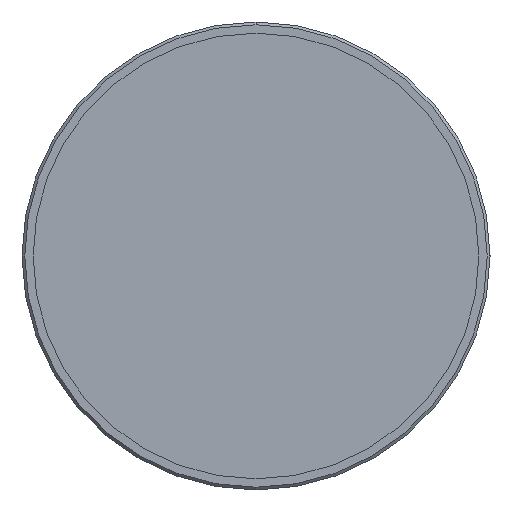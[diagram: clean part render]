
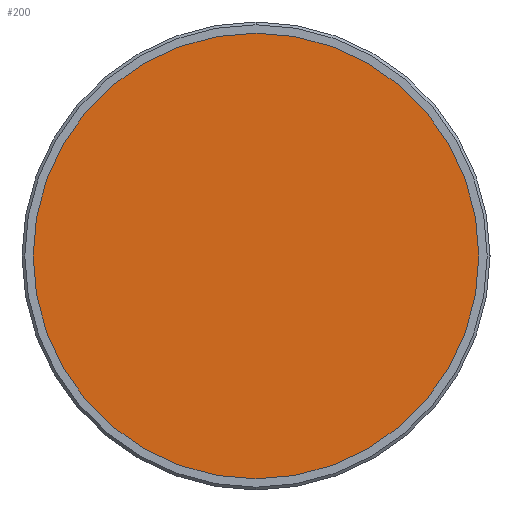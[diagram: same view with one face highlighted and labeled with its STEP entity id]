
A CAD part, left-side view. The second image highlights one B-rep face of the part: STEP entity #200.
In plain terms, the highlighted planar face has unit normal (-1, 0, 0).
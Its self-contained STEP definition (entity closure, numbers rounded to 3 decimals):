
#200=ADVANCED_FACE('Volume46',(#253),#944,.T.);
#253=FACE_OUTER_BOUND('',#811,.T.);
#484=ORIENTED_EDGE('',*,*,#601,.F.);
#485=ORIENTED_EDGE('',*,*,#600,.F.);
#600=EDGE_CURVE('40',#748,#749,#674,.T.);
#601=EDGE_CURVE('39',#749,#748,#675,.T.);
#674=CIRCLE('',#1315,20.);
#675=CIRCLE('',#1317,20.);
#748=VERTEX_POINT('40',#1183);
#749=VERTEX_POINT('39',#1185);
#811=EDGE_LOOP('',(#484,#485));
#944=PLANE('',#1318);
#1183=CARTESIAN_POINT('',(-57.5,0.,-20.));
#1185=CARTESIAN_POINT('',(-57.5,0.,20.));
#1187=CARTESIAN_POINT('',(-57.5,0.,0.));
#1189=CARTESIAN_POINT('',(-57.5,0.,0.));
#1190=CARTESIAN_POINT('',(-57.5,-20.531,-20.5));
#1315=AXIS2_PLACEMENT_3D('',#1187,#1320,#1321);
#1317=AXIS2_PLACEMENT_3D('',#1189,#1320,#1319);
#1318=AXIS2_PLACEMENT_3D('',#1190,#1322,#1319);
#1319=DIRECTION('',(0.,0.,1.));
#1320=DIRECTION('',(1.,0.,0.));
#1321=DIRECTION('',(0.,0.,-1.));
#1322=DIRECTION('',(-1.,0.,0.));
